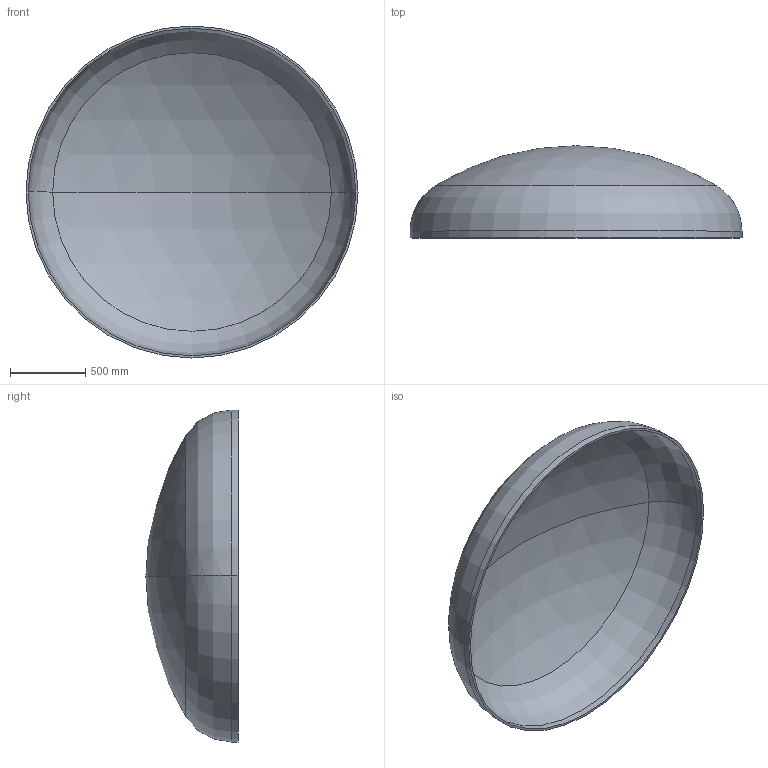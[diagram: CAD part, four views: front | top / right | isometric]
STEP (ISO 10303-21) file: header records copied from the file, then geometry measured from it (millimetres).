
FILE_DESCRIPTION (( 'STEP AP203' ), '1' );
FILE_NAME ('DIN 28013 Korbbogenform_-_Boden DIN 28013 - 2200 x 45 - I - s=15.step', '2016-07-01T14:21:33', ( '' ), ( '' ), 'SwSTEP 2.0', 'SolidWorks 2013', '' );
FILE_SCHEMA (( 'CONFIG_CONTROL_DESIGN' ));
Length unit declared in the file: millimetre
Products named in the file (1): DIN 28013 Korbbogenform_-_Boden DIN 28013 - 2200 x 45 - I - s=15
Bounding box: 2200 x 611.13 x 2200 mm (x, y, z)
Volume: 82951741.8 mm3; surface area: 11163664.9 mm2
Topology: 1 solids, 1 shells, 13 faces, 24 edges, 14 vertices
Faces by surface type: torus 4, cylinder 4, sphere 4, plane 1
Entity records: 407 total; most frequent: DIRECTION 72, CARTESIAN_POINT 52, ORIENTED_EDGE 48, AXIS2_PLACEMENT_3D 34, EDGE_CURVE 24, CIRCLE 20, EDGE_LOOP 14, VERTEX_POINT 14
